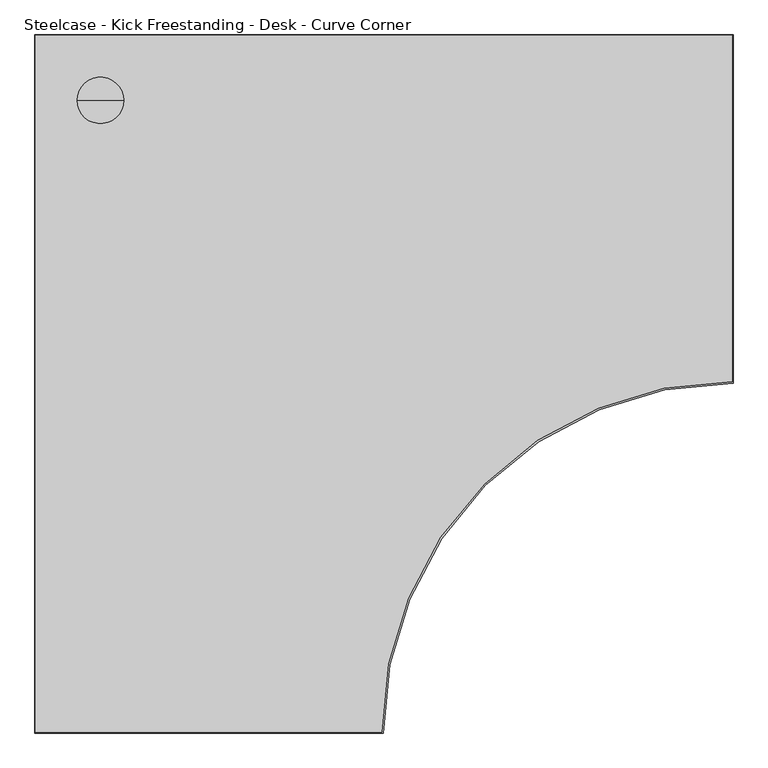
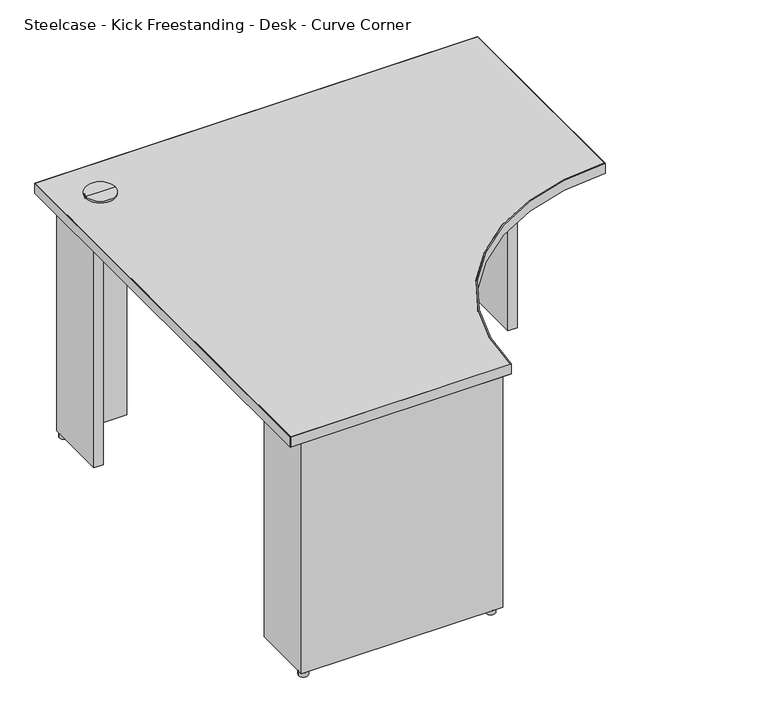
"""IFC4 building model written with IfcOpenShell, lengths in millimetres: furniture geometry, Steelcase - Kick Freestanding - Desk - Curve Corner : 24D x 48W - Left Full End Panel/Right Clear Access Support - LPL."""

from ifc_helpers import new_model, si_unit, point, frame, frame_2d, origin, origin_with_axes, place, context, project, spatial, polyline, circle_curve, trimmed, segment, composite_curve, outline, extrude, source, transform, mapped, element, save
from ifc_brep_helpers import plane_surface, cylinder_surface, advanced_brep


def steelcase_kick_freestanding_desk_curve_corner_1f74ec92(model_context):
    return source(origin(), model_context, "Body", "SolidModel", [
        extrude(outline(composite_curve([segment(trimmed(circle_curve(frame_2d((566.7971133, -1192.2759893)), 12.7), [point((554.0971133, -1192.2759893))], [point((579.4971133, -1192.2759893))], False, "CARTESIAN"), True, "CONTINUOUS"), segment(trimmed(circle_curve(frame_2d((566.7971133, -1192.2759893)), 12.7), [point((579.4971133, -1192.2759893))], [point((554.0971133, -1192.2759893))], False, "CARTESIAN"), True, "CONTINUOUS")], self_intersect=False)), origin_with_axes(), (0.0, 0.0, 1.0), 12.446),
        extrude(outline(polyline([(1026.4393822, -63.5), (1026.4393822, -38.1), (1204.2393579, -38.1), (1204.2393579, -215.8999939), (1178.3313463, -215.8999939), (1178.3313463, -63.5), (1026.4393822, -63.5)])), frame((0.0, 0.0, 12.446), z_axis=(0.0, 0.0, 1.0), x_axis=(1.0, 0.0, 0.0)), (0.0, 0.0, 1.0), 682.498),
        extrude(outline(polyline([(215.8999939, -63.5), (63.5, -63.5), (63.5, -215.8999939), (38.1, -215.8999939), (38.1, -38.1), (215.8999939, -38.1), (215.8999939, -63.5)])), frame((0.0, 0.0, 12.446), z_axis=(0.0, 0.0, 1.0), x_axis=(1.0, 0.0, 0.0)), (0.0, 0.0, 1.0), 682.498),
        extrude(outline(polyline([(63.5, -1027.4300194), (63.5, -1179.8300194), (161.3662, -1179.8300194), (161.3662, -1199.4895822), (261.0866, -1199.4895822), (261.0866, -1179.8300194), (369.824, -1179.8300194), (369.824, -1199.4895822), (469.5444, -1199.4895822), (469.5444, -1179.8300194), (592.582, -1179.8300194), (592.582, -1205.2299952), (38.1, -1205.2299952), (38.1, -1027.4300194), (63.5, -1027.4300194)])), frame((0.0, 0.0, 12.446), z_axis=(0.0, 0.0, 1.0), x_axis=(1.0, 0.0, 0.0)), (0.0, 0.0, 1.0), 682.498),
        advanced_brep(
        [(114.3, -114.3, 728.98), (154.94, -114.3, 728.98), (73.66, -114.3, 728.98), (76.1699693, -114.3, 694.944), (152.4300307, -114.3, 694.944), (114.3, -114.3, 694.944), (76.1699693, -114.3, 723.9), (152.4300307, -114.3, 723.9), (73.66, -114.3, 723.9), (154.94, -114.3, 723.9)],
        [
            (0, 1),
            (1, 2, circle_curve(frame((114.3, -114.3, 728.98), z_axis=(0.0, 0.0, 1.0), x_axis=(1.0, 0.0, 0.0)), 40.64)),
            (2, 0),
            (2, 1, circle_curve(frame((114.3, -114.3, 728.98), z_axis=(0.0, 0.0, 1.0), x_axis=(1.0, 0.0, 0.0)), 40.64)),
            (3, 4, circle_curve(frame((114.3, -114.3, 694.944), z_axis=(0.0, 0.0, -1.0), x_axis=(1.0, 0.0, 0.0)), 38.1300307)),
            (4, 5),
            (5, 3),
            (4, 3, circle_curve(frame((114.3, -114.3, 694.944), z_axis=(0.0, 0.0, -1.0), x_axis=(1.0, 0.0, 0.0)), 38.1300307)),
            (6, 7, circle_curve(frame((114.3, -114.3, 723.9), z_axis=(0.0, 0.0, -1.0), x_axis=(1.0, 0.0, 0.0)), 38.1300307)),
            (7, 4),
            (3, 6),
            (7, 6, circle_curve(frame((114.3, -114.3, 723.9), z_axis=(0.0, 0.0, -1.0), x_axis=(1.0, 0.0, 0.0)), 38.1300307)),
            (8, 9, circle_curve(frame((114.3, -114.3, 723.9), z_axis=(0.0, 0.0, -1.0), x_axis=(1.0, 0.0, 0.0)), 40.64)),
            (9, 7),
            (6, 8),
            (9, 8, circle_curve(frame((114.3, -114.3, 723.9), z_axis=(0.0, 0.0, -1.0), x_axis=(1.0, 0.0, 0.0)), 40.64)),
            (1, 9),
            (8, 2),
        ],
        [
            plane_surface(frame((114.3, -114.3, 728.98), z_axis=(0.0, 0.0, 1.0), x_axis=(1.0, 0.0, 0.0))),
            plane_surface(frame((114.3, -114.3, 694.944), z_axis=(0.0, 0.0, -1.0), x_axis=(1.0, 0.0, 0.0))),
            cylinder_surface(frame((114.3, -114.3, 728.98), z_axis=(0.0, 0.0, 1.0), x_axis=(1.0, 0.0, 0.0)), 38.1300307),
            plane_surface(frame((114.3, -114.3, 723.9), z_axis=(0.0, 0.0, -1.0), x_axis=(1.0, 0.0, 0.0))),
            cylinder_surface(frame((114.3, -114.3, 728.98), z_axis=(0.0, 0.0, 1.0), x_axis=(1.0, 0.0, 0.0)), 40.64),
        ],
        [
            (0, [[1, 2, 3]]),
            (0, [[-3, 4, -1]]),
            (1, [[5, 6, 7]]),
            (1, [[8, -7, -6]]),
            (2, [[9, 10, -5, 11]]),
            (2, [[12, -11, -8, -10]]),
            (3, [[13, 14, -9, 15]]),
            (3, [[16, -15, -12, -14]]),
            (4, [[-2, 17, -13, 18]]),
            (4, [[-4, -18, -16, -17]]),
        ],
    ),
        extrude(outline(composite_curve([segment(trimmed(circle_curve(frame_2d((50.8, -50.8)), 12.7), [point((38.1, -50.8))], [point((63.5, -50.8))], False, "CARTESIAN"), True, "CONTINUOUS"), segment(trimmed(circle_curve(frame_2d((50.8, -50.8)), 12.7), [point((63.5, -50.8))], [point((38.1, -50.8))], False, "CARTESIAN"), True, "CONTINUOUS")], self_intersect=False)), origin_with_axes(), (0.0, 0.0, 1.0), 12.446),
        extrude(outline(composite_curve([segment(trimmed(circle_curve(frame_2d((50.8, -1192.5300073)), 12.7484998), [point((38.0515002, -1192.5300073))], [point((63.5484998, -1192.5300073))], False, "CARTESIAN"), True, "CONTINUOUS"), segment(trimmed(circle_curve(frame_2d((50.8, -1192.5300073)), 12.7484998), [point((63.5484998, -1192.5300073))], [point((38.0515002, -1192.5300073))], False, "CARTESIAN"), True, "CONTINUOUS")], self_intersect=False)), origin_with_axes(), (0.0, 0.0, 1.0), 12.446),
        extrude(outline(composite_curve([segment(trimmed(circle_curve(frame_2d((1191.2853521, -50.8)), 12.7), [point((1178.5853521, -50.8))], [point((1203.9853521, -50.8))], False, "CARTESIAN"), True, "CONTINUOUS"), segment(trimmed(circle_curve(frame_2d((1191.2853521, -50.8)), 12.7), [point((1203.9853521, -50.8))], [point((1178.5853521, -50.8))], False, "CARTESIAN"), True, "CONTINUOUS")], self_intersect=False)), origin_with_axes(), (0.0, 0.0, 1.0), 12.446),
        extrude(outline(composite_curve([segment(polyline([(0.9906, -1218.2093628), (0.9906, -0.9906), (1218.2093628, -0.9906), (1218.2093628, -605.3354109)]), True, "CONTINUOUS"), segment(trimmed(circle_curve(frame_2d((1216.9393458, -1216.9393458)), 611.6052536), [point((1218.2093628, -605.3354109))], [point((605.3354109, -1218.2093628))], True, "CARTESIAN"), True, "CONTINUOUS"), segment(polyline([(605.3354109, -1218.2093628), (0.9906, -1218.2093628)]), True, "CONTINUOUS")], self_intersect=False)), frame((0.0, 0.0, 694.944), z_axis=(0.0, 0.0, 1.0), x_axis=(1.0, 0.0, 0.0)), (0.0, 0.0, 1.0), 28.956),
        extrude(outline(composite_curve([segment(polyline([(1219.2, 0.0), (1219.2, -608.332629)]), True, "CONTINUOUS"), segment(trimmed(circle_curve(frame_2d((1217.929983, -1217.929983)), 609.598677), [point((1219.2, -608.332629))], [point((608.332629, -1219.2))], True, "CARTESIAN"), True, "CONTINUOUS"), segment(polyline([(608.332629, -1219.2), (0.0, -1219.2), (0.0, 0.0), (1219.2, 0.0)]), True, "CONTINUOUS")], self_intersect=False), holes=[composite_curve([segment(polyline([(1218.2093628, -0.9906), (0.9906, -0.9906), (0.9906, -1218.2093628), (605.3354109, -1218.2093628)]), True, "CONTINUOUS"), segment(trimmed(circle_curve(frame_2d((1216.9393458, -1216.9393458)), 611.6052536), [point((605.3354109, -1218.2093628))], [point((1218.2093628, -605.3354109))], False, "CARTESIAN"), True, "CONTINUOUS"), segment(polyline([(1218.2093628, -605.3354109), (1218.2093628, -0.9906)]), True, "CONTINUOUS")], self_intersect=False)]), frame((0.0, 0.0, 694.944), z_axis=(0.0, 0.0, 1.0), x_axis=(1.0, 0.0, 0.0)), (0.0, 0.0, 1.0), 28.956),
    ])


if __name__ == "__main__":
    model = new_model("IFC4")
    model_context = context("Model", 3, world=origin())
    ifc_project = project(units=[si_unit("LENGTHUNIT", "METRE", prefix="MILLI")], contexts=[model_context])
    site = spatial("IfcSite", under=ifc_project)
    building = spatial("IfcBuilding", under=site)
    placement = place(None, origin())
    steelcase_kick_freestanding_desk_curve_corner_shape = steelcase_kick_freestanding_desk_curve_corner_1f74ec92(model_context)
    element("IfcFurniture", 1, ObjectType="Steelcase - Kick Freestanding - Desk - Curve Corner : 24D x 48W - Left Full End Panel/Right Clear Access Support - LPL", at=placement, inside=building, context=model_context, shape_type="MappedRepresentation", body=[
        mapped(steelcase_kick_freestanding_desk_curve_corner_shape, transform((0.0, 0.0, 0.0), x_axis=(1.0, 0.0, 0.0), y_axis=(0.0, 1.0, 0.0), z_axis=(0.0, 0.0, 1.0))),
    ])
    save(model, "model.ifc")
